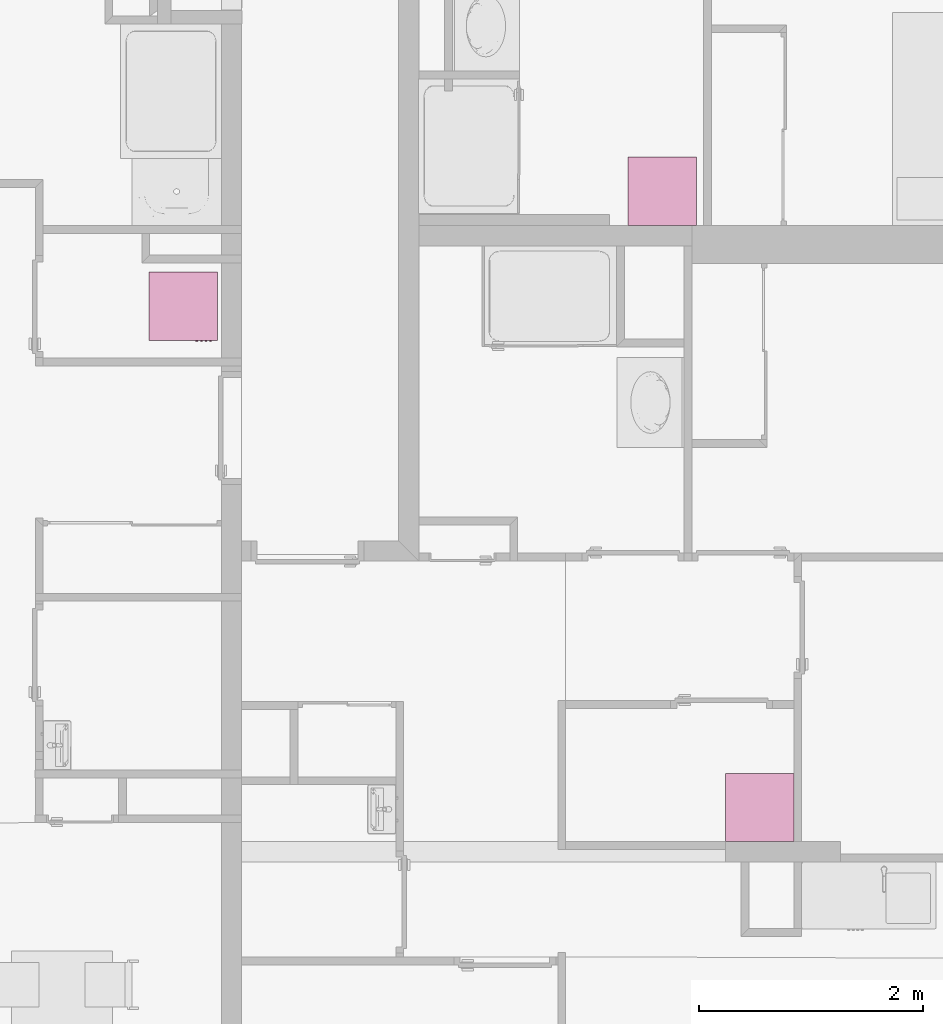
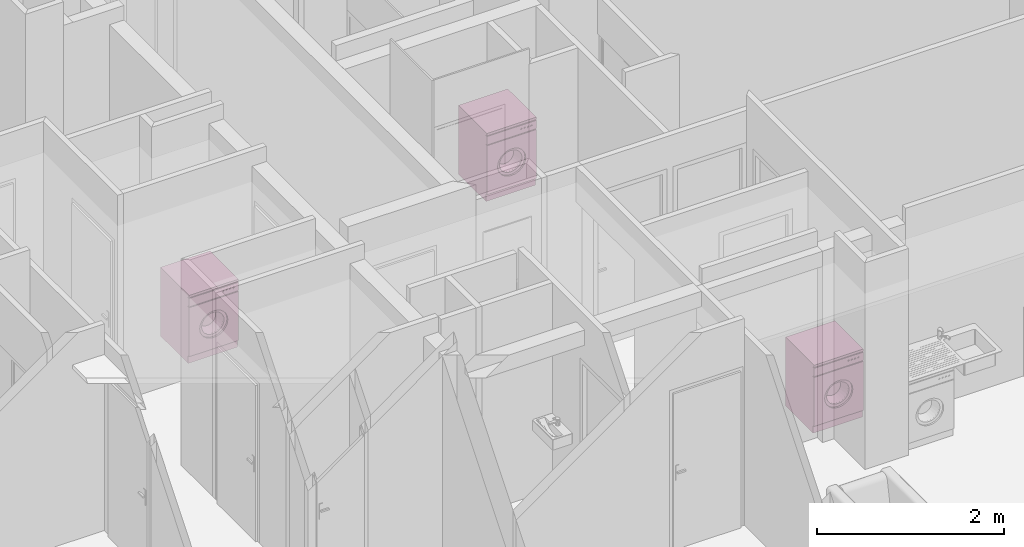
# One storey, part 118 of 164: 3 furnishings.
"""IFC2X3 building model written with IfcOpenShell, lengths in millimetres."""

import ifcopenshell
import ifcopenshell.guid

model = None  # the IFC model being written
_history = None  # IfcOwnerHistory: only IFC2X3 demands one
_inside = {}  # id of a spatial element -> (the spatial element, [elements in it])
_under = {}  # id of a project, library or spatial element -> (it, [spatial elements below it])
_declared = {}  # id of a project -> (the project, [libraries it declares])
_typed = {}  # id of a type object -> (the type object, [elements of that type])
_made_of = {}  # id of a material, layer set ... -> (it, [elements and type objects made of it])


def new_model(schema):
    """Start an empty IFC model of exactly this schema.

    Asked for "IFC4X3", IfcOpenShell would pick the latest addendum, in which some entities
    have other attributes; the version numbers below select the first issue.
    IFC2X3 requires an IfcOwnerHistory on every rooted entity: one is made here for all.
    """
    global model, _history
    if schema == "IFC4X3":
        model = ifcopenshell.file(schema_version=(4, 3, 0, 0))
    else:
        model = ifcopenshell.file(schema=schema)
    _inside.clear()
    _under.clear()
    _declared.clear()
    _typed.clear()
    _made_of.clear()
    _history = None
    if model.schema == "IFC2X3":
        org = make("IfcOrganization", Name="unknown")
        user = make(
            "IfcPersonAndOrganization",
            ThePerson=make("IfcPerson", FamilyName="unknown"),
            TheOrganization=org,
        )
        app = make(
            "IfcApplication",
            ApplicationDeveloper=org,
            Version="unknown",
            ApplicationFullName="unknown",
            ApplicationIdentifier="unknown",
        )
        _history = make(
            "IfcOwnerHistory",
            OwningUser=user,
            OwningApplication=app,
            ChangeAction="ADDED",
            CreationDate=0,
        )
    return model


def make(cls, **values):
    """One entity of the class cls with the attributes given. An attribute that is None is left unset."""
    return model.create_entity(
        cls, **{name: value for name, value in values.items() if value is not None}
    )


def entity(cls, *values):
    """Any entity or typed value of the class cls, its attributes in the order of the schema. None: left unset."""
    e = model.create_entity(cls)
    for i, value in enumerate(values):
        if value is not None:
            e[i] = value
    return e


def rooted(cls, **values):
    """An entity with a GlobalId (a new one), such as an element, a storey or a relation."""
    return make(cls, GlobalId=ifcopenshell.guid.new(), OwnerHistory=_history, **values)


def si_unit(unit_type, name, prefix=None):
    """IfcSIUnit, for example si_unit("LENGTHUNIT", "METRE", prefix="MILLI")."""
    return make("IfcSIUnit", UnitType=unit_type, Prefix=prefix, Name=name)


def converted_unit(unit_type, name, factor, base, dimensions=None, offset=None):
    """IfcConversionBasedUnit, such as the inch: factor (a typed value) times the base unit."""
    return make(
        "IfcConversionBasedUnit"
        if offset is None
        else "IfcConversionBasedUnitWithOffset",
        ConversionOffset=offset,
        Dimensions=None
        if dimensions is None
        else entity("IfcDimensionalExponents", *dimensions),
        UnitType=unit_type,
        Name=name,
        ConversionFactor=make(
            "IfcMeasureWithUnit", ValueComponent=factor, UnitComponent=base
        ),
    )


def derived_unit(unit_type, elements):
    """IfcDerivedUnit: a product of units, each with its exponent."""
    return make(
        "IfcDerivedUnit",
        Elements=[
            make("IfcDerivedUnitElement", Unit=unit, Exponent=power)
            for unit, power in elements
        ],
        UnitType=unit_type,
    )


def money_unit(currency):
    """IfcMonetaryUnit."""
    return make("IfcMonetaryUnit", Currency=currency)


def assignment(units):
    """IfcUnitAssignment: the units of a project."""
    return None if units is None else make("IfcUnitAssignment", Units=units)


def point(xyz):
    """IfcCartesianPoint."""
    return None if xyz is None else make("IfcCartesianPoint", Coordinates=xyz)


def direction(xyz):
    """IfcDirection."""
    return None if xyz is None else make("IfcDirection", DirectionRatios=xyz)


def frame(location, z_axis=None, x_axis=None):
    """IfcAxis2Placement3D, a coordinate frame: its origin and axes. An axis left out is left unset."""
    return make(
        "IfcAxis2Placement3D",
        Location=point(location),
        Axis=direction(z_axis),
        RefDirection=direction(x_axis),
    )


def origin_with_axes():
    """The frame at (0, 0, 0) with the z axis (0, 0, 1) and the x axis (1, 0, 0) written out."""
    return frame((0.0, 0.0, 0.0), z_axis=(0.0, 0.0, 1.0), x_axis=(1.0, 0.0, 0.0))


def place(relative_to, where):
    """IfcLocalPlacement: puts the frame where relative to a parent placement (None: the world)."""
    return make(
        "IfcLocalPlacement", PlacementRelTo=relative_to, RelativePlacement=where
    )


def context(
    kind, dimensions, precision=None, world=None, true_north=None, identifier=None
):
    """IfcGeometricRepresentationContext, for example the 3D "Model" context."""
    return make(
        "IfcGeometricRepresentationContext",
        ContextIdentifier=identifier,
        ContextType=kind,
        CoordinateSpaceDimension=dimensions,
        Precision=precision,
        WorldCoordinateSystem=world,
        TrueNorth=true_north,
    )


def subcontext(parent, identifier, kind, view, scale=None):
    """IfcGeometricRepresentationSubContext, for example "Body" below "Model"."""
    return make(
        "IfcGeometricRepresentationSubContext",
        ContextIdentifier=identifier,
        ContextType=kind,
        ParentContext=parent,
        TargetScale=scale,
        TargetView=view,
    )


def project(units=None, contexts=None):
    """IfcProject with its units and contexts."""
    return rooted(
        "IfcProject",
        Name="project",
        RepresentationContexts=contexts,
        UnitsInContext=assignment(units),
    )


def spatial(cls, under=None, at=None, **own):
    """A site, building, storey or space (cls), placed at a placement, below another one or the project."""
    s = rooted(cls, ObjectPlacement=at, **own)
    if under is not None:
        _under.setdefault(under.id(), (under, []))[1].append(s)
    return s


def faces_of(points, faces, orient=None, outer=None):
    """IfcFace entities. A face is a list of loops; a loop is a list of indices into points, from 0.

    orient and outer hold one flag for each loop. By default every Orientation is true, the
    first loop of a face is its IfcFaceOuterBound and the others are IfcFaceBound.
    """
    made = []
    for i, loops in enumerate(faces):
        bounds = []
        for j, loop in enumerate(loops):
            is_outer = j == 0 if outer is None else outer[i][j]
            bounds.append(
                make(
                    "IfcFaceOuterBound" if is_outer else "IfcFaceBound",
                    Bound=make("IfcPolyLoop", Polygon=[points[k] for k in loop]),
                    Orientation=True if orient is None else orient[i][j],
                )
            )
        made.append(make("IfcFace", Bounds=bounds))
    return made


def open_shell(faces, orient=None, outer=None):
    """The faces of one IfcOpenShell. surface_model builds it on its shared points."""
    return ("IfcOpenShell", faces, orient, outer)


def faceted_brep(points, faces, orient=None, outer=None, voids=None):
    """IfcFacetedBrep: a solid bounded by flat faces; with voids (closed shells), ...WithVoids."""
    shared = [point(p) for p in points]
    hull = make("IfcClosedShell", CfsFaces=faces_of(shared, faces, orient, outer))
    if voids is None:
        return make("IfcFacetedBrep", Outer=hull)
    return make(
        "IfcFacetedBrepWithVoids",
        Outer=hull,
        Voids=[
            make(cls, CfsFaces=faces_of(shared, fs, o, b)) for cls, fs, o, b in voids
        ],
    )


def surface_model(cls, points, shells):
    """IfcFaceBasedSurfaceModel or IfcShellBasedSurfaceModel (cls): surfaces that need not close."""
    shared = [point(p) for p in points]
    made = [make(c, CfsFaces=faces_of(shared, fs, o, b)) for c, fs, o, b in shells]
    if cls == "IfcFaceBasedSurfaceModel":
        return make(cls, FbsmFaces=made)
    return make(cls, SbsmBoundary=made)


def shape(context_of_items, identifier, shape_type, items):
    """IfcShapeRepresentation: the items that make up one representation, for example the "Body"."""
    return make(
        "IfcShapeRepresentation",
        ContextOfItems=context_of_items,
        RepresentationIdentifier=identifier,
        RepresentationType=shape_type,
        Items=items,
    )


def source(mapping_origin, context_of_items, identifier, shape_type, items):
    """IfcRepresentationMap: a shape defined once, which mapped items show again and again."""
    return make(
        "IfcRepresentationMap",
        MappingOrigin=mapping_origin,
        MappedRepresentation=shape(context_of_items, identifier, shape_type, items),
    )


def transform(
    local_origin,
    x_axis=None,
    y_axis=None,
    z_axis=None,
    scale=None,
    scale2=None,
    scale3=None,
    uniform=True,
):
    """IfcCartesianTransformationOperator3D, or its non-uniform kind. x_axis, y_axis, z_axis: its Axis1, 2, 3."""
    if uniform:
        return make(
            "IfcCartesianTransformationOperator3D",
            Axis1=direction(x_axis),
            Axis2=direction(y_axis),
            LocalOrigin=point(local_origin),
            Scale=scale,
            Axis3=direction(z_axis),
        )
    return make(
        "IfcCartesianTransformationOperator3DnonUniform",
        Axis1=direction(x_axis),
        Axis2=direction(y_axis),
        LocalOrigin=point(local_origin),
        Scale=scale,
        Axis3=direction(z_axis),
        Scale2=scale2,
        Scale3=scale3,
    )


def mapped(mapping_source, mapping_target):
    """IfcMappedItem: shows the shape of a source again, moved by a transform."""
    return make(
        "IfcMappedItem", MappingSource=mapping_source, MappingTarget=mapping_target
    )


def made_of(thing, what):
    """Note that an element or type object is made of a material, layer set ...; save() writes the relation."""
    if what is not None:
        _made_of.setdefault(what.id(), (what, []))[1].append(thing)
    return thing


def type_object(cls, material=None, **own):
    """A type object (cls), such as IfcWallType, which elements share."""
    return made_of(rooted(cls, **own), material)


def element(
    cls,
    number,
    at=None,
    inside=None,
    cuts=None,
    type_object=None,
    material=None,
    context=None,
    identifier="Body",
    shape_type=None,
    held_by="IfcProductDefinitionShape",
    body=None,
    shapes=None,
    **own,
):
    """One element of the class cls, such as IfcWall. Its Tag is "e" and its number.

    at: its placement. inside: the storey or other place that contains it. cuts: it is an
    opening in that element (IfcRelVoidsElement). A single representation is given by context,
    identifier, shape_type and body (its items); several are given by shapes. held_by: the class
    of the entity that holds the representations. save() writes the other relations.
    """
    e = rooted(cls, Tag="e%d" % number, ObjectPlacement=at, **own)
    if body is not None:
        shapes = [shape(context, identifier, shape_type, body)]
    if shapes is not None:
        e.Representation = make(held_by, Representations=shapes)
    if inside is not None:
        _inside.setdefault(inside.id(), (inside, []))[1].append(e)
    if cuts is not None:
        rooted(
            "IfcRelVoidsElement", RelatingBuildingElement=cuts, RelatedOpeningElement=e
        )
    if type_object is not None:
        _typed.setdefault(type_object.id(), (type_object, []))[1].append(e)
    return made_of(e, material)


def aggregate(whole, parts):
    """IfcRelAggregates: a whole, such as a stair, and the parts it consists of."""
    return rooted("IfcRelAggregates", RelatingObject=whole, RelatedObjects=parts)


def save(model, path):
    """Write the relations noted so far, then the file.

    IfcRelAggregates (storeys below a building ...), IfcRelContainedInSpatialStructure (elements
    in a storey), IfcRelDefinesByType, IfcRelAssociatesMaterial and IfcRelDeclares: one each for
    every whole, place, type object, material and project.
    """
    for whole, parts in _under.values():
        aggregate(whole, parts)
    for where, things in _inside.values():
        rooted(
            "IfcRelContainedInSpatialStructure",
            RelatedElements=things,
            RelatingStructure=where,
        )
    for kind, things in _typed.values():
        rooted("IfcRelDefinesByType", RelatedObjects=things, RelatingType=kind)
    for what, things in _made_of.values():
        rooted("IfcRelAssociatesMaterial", RelatedObjects=things, RelatingMaterial=what)
    for by, libraries in _declared.values():
        rooted("IfcRelDeclares", RelatingContext=by, RelatedDefinitions=libraries)
    model.write(path)


model = new_model("IFC2X3")

# Units and contexts
model_context = context("Model", 3, precision=0.01, world=origin_with_axes(), true_north=direction((0.0, 1.0)))
body_context = subcontext(model_context, "Body", "Model", "MODEL_VIEW")
ifc_project = project(units=[si_unit("LENGTHUNIT", "METRE", prefix="MILLI"), si_unit("AREAUNIT", "SQUARE_METRE"), si_unit("VOLUMEUNIT", "CUBIC_METRE"), converted_unit("PLANEANGLEUNIT", "DEGREE", entity("IfcPlaneAngleMeasure", 0.0174532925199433), si_unit("PLANEANGLEUNIT", "RADIAN"), dimensions=[0, 0, 0, 0, 0, 0, 0]), money_unit("USD"), converted_unit("TIMEUNIT", "Year", entity("IfcTimeMeasure", 31557600.0), si_unit("TIMEUNIT", "SECOND"), dimensions=[0, 0, 1, 0, 0, 0, 0]), si_unit("MASSUNIT", "GRAM", prefix="KILO"), si_unit("THERMODYNAMICTEMPERATUREUNIT", "DEGREE_CELSIUS"), si_unit("LUMINOUSINTENSITYUNIT", "LUMEN"), si_unit("ENERGYUNIT", "JOULE", prefix="MEGA"), derived_unit("THERMALCONDUCTANCEUNIT", [(si_unit("POWERUNIT", "WATT"), 1), (si_unit("LENGTHUNIT", "METRE"), -1), (si_unit("THERMODYNAMICTEMPERATUREUNIT", "KELVIN"), -1)]), derived_unit("SPECIFICHEATCAPACITYUNIT", [(si_unit("ENERGYUNIT", "JOULE"), 1), (si_unit("MASSUNIT", "GRAM", prefix="KILO"), -1), (si_unit("THERMODYNAMICTEMPERATUREUNIT", "KELVIN"), -1)]), derived_unit("MASSDENSITYUNIT", [(si_unit("MASSUNIT", "GRAM", prefix="KILO"), 1), (si_unit("VOLUMEUNIT", "CUBIC_METRE"), -1)])], contexts=[model_context])

# Site, building, storey
site_placement = place(None, origin_with_axes())
site = spatial("IfcSite", under=ifc_project, at=site_placement, Name="Site", CompositionType="ELEMENT")
building_placement = place(site_placement, origin_with_axes())
building = spatial("IfcBuilding", under=site, at=building_placement, Name="Bâtiment", CompositionType="ELEMENT")
storey_placement = place(building_placement, frame((0.0, 0.0, 5750.0), z_axis=(0.0, 0.0, 1.0), x_axis=(1.0, 0.0, 0.0)))
storey = spatial("IfcBuildingStorey", under=building, at=storey_placement, Name="Etage1", CompositionType="ELEMENT", Elevation=5750.0)

# Furnishings
furnishing_element_type = type_object("IfcFurnishingElementType", Name="Machine à laver")
shared_shape = source(origin_with_axes(), body_context, "Body", "SurfaceModel", [
    faceted_brep([(0.0, 20.33333333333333, 100.0), (0.0, 0.0, 100.0), (-610.0, 0.0, 100.0), (-610.0, 20.33333333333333, 100.0), (0.0, 20.33333333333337, 740.0), (0.0, 0.0, 740.0), (-610.0, 0.0, 740.0), (-479.2857142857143, 0.0, 420.0000000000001), (-473.3470725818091, 0.0, 465.1084621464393), (-455.935856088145, 0.0, 507.1428571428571), (-428.2386104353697, 0.0, 543.2386104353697), (-392.1428571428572, 0.0, 570.935856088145), (-350.1084621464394, 0.0, 588.347072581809), (-305.0000000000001, 0.0, 594.2857142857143), (-259.8915378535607, 0.0, 588.347072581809), (-217.8571428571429, 0.0, 570.9358560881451), (-181.7613895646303, 0.0, 543.2386104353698), (-154.0641439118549, 0.0, 507.1428571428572), (-136.6529274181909, 0.0, 465.1084621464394), (-130.7142857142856, 0.0, 420.0000000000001), (-136.6529274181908, 0.0, 374.8915378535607), (-154.0641439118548, 0.0, 332.8571428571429), (-181.7613895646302, 0.0, 296.7613895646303), (-217.8571428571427, 0.0, 269.064143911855), (-259.8915378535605, 0.0, 251.6529274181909), (-304.9999999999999, 0.0, 245.7142857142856), (-350.1084621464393, 0.0, 251.6529274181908), (-392.1428571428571, 0.0, 269.0641439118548), (-428.2386104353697, 0.0, 296.7613895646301), (-455.935856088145, 0.0, 332.8571428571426), (-473.3470725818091, 0.0, 374.8915378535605), (-610.0, 20.33333333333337, 740.0), (-479.2857142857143, 20.33333333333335, 420.0000000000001), (-473.3470725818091, 20.33333333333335, 374.8915378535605), (-455.935856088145, 20.33333333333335, 332.8571428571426), (-428.2386104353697, 20.33333333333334, 296.7613895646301), (-392.1428571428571, 20.33333333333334, 269.0641439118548), (-350.1084621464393, 20.33333333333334, 251.6529274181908), (-304.9999999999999, 20.33333333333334, 245.7142857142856), (-259.8915378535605, 20.33333333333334, 251.6529274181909), (-217.8571428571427, 20.33333333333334, 269.064143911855), (-181.7613895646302, 20.33333333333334, 296.7613895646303), (-154.0641439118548, 20.33333333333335, 332.8571428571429), (-136.6529274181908, 20.33333333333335, 374.8915378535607), (-130.7142857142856, 20.33333333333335, 420.0000000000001), (-136.6529274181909, 20.33333333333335, 465.1084621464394), (-154.0641439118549, 20.33333333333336, 507.1428571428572), (-181.7613895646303, 20.33333333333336, 543.2386104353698), (-217.8571428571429, 20.33333333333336, 570.9358560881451), (-259.8915378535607, 20.33333333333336, 588.347072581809), (-305.0000000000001, 20.33333333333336, 594.2857142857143), (-350.1084621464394, 20.33333333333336, 588.347072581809), (-392.1428571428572, 20.33333333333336, 570.935856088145), (-428.2386104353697, 20.33333333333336, 543.2386104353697), (-455.935856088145, 20.33333333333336, 507.1428571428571), (-473.3470725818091, 20.33333333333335, 465.1084621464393)], [[[0, 1, 2, 3]], [[4, 5, 1, 0]], [[1, 5, 6, 2], [7, 8, 9, 10, 11, 12, 13, 14, 15, 16, 17, 18, 19, 20, 21, 22, 23, 24, 25, 26, 27, 28, 29, 30]], [[3, 2, 6, 31]], [[0, 3, 31, 4], [32, 33, 34, 35, 36, 37, 38, 39, 40, 41, 42, 43, 44, 45, 46, 47, 48, 49, 50, 51, 52, 53, 54, 55]], [[31, 6, 5, 4]], [[55, 8, 7, 32]], [[54, 9, 8, 55]], [[53, 10, 9, 54]], [[52, 11, 10, 53]], [[51, 12, 11, 52]], [[50, 13, 12, 51]], [[49, 14, 13, 50]], [[48, 15, 14, 49]], [[47, 16, 15, 48]], [[46, 17, 16, 47]], [[45, 18, 17, 46]], [[44, 19, 18, 45]], [[43, 20, 19, 44]], [[42, 21, 20, 43]], [[41, 22, 21, 42]], [[40, 23, 22, 41]], [[39, 24, 23, 40]], [[38, 25, 24, 39]], [[37, 26, 25, 38]], [[36, 27, 26, 37]], [[35, 28, 27, 36]], [[34, 29, 28, 35]], [[33, 30, 29, 34]], [[32, 7, 30, 33]]]),
    faceted_brep([(-479.2857142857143, 40.66666666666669, 420.0000000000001), (-479.2857142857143, 20.33333333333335, 420.0000000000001), (-473.3470725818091, 20.33333333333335, 465.1084621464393), (-473.3470725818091, 40.66666666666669, 465.1084621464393), (-473.3470725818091, 40.66666666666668, 374.8915378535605), (-473.3470725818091, 20.33333333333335, 374.8915378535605), (-455.935856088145, 20.33333333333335, 332.8571428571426), (-428.2386104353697, 20.33333333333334, 296.7613895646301), (-392.1428571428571, 20.33333333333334, 269.0641439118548), (-350.1084621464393, 20.33333333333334, 251.6529274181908), (-304.9999999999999, 20.33333333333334, 245.7142857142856), (-259.8915378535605, 20.33333333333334, 251.6529274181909), (-217.8571428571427, 20.33333333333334, 269.064143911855), (-181.7613895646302, 20.33333333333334, 296.7613895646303), (-154.0641439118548, 20.33333333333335, 332.8571428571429), (-136.6529274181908, 20.33333333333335, 374.8915378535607), (-130.7142857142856, 20.33333333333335, 420.0000000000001), (-136.6529274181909, 20.33333333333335, 465.1084621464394), (-154.0641439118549, 20.33333333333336, 507.1428571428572), (-181.7613895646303, 20.33333333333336, 543.2386104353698), (-217.8571428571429, 20.33333333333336, 570.9358560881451), (-259.8915378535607, 20.33333333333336, 588.347072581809), (-305.0000000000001, 20.33333333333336, 594.2857142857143), (-350.1084621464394, 20.33333333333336, 588.347072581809), (-392.1428571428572, 20.33333333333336, 570.935856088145), (-428.2386104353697, 20.33333333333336, 543.2386104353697), (-455.935856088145, 20.33333333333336, 507.1428571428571), (-444.4285714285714, 20.33333333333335, 420.0000000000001), (-439.6776580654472, 20.33333333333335, 456.0867697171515), (-425.748684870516, 20.33333333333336, 489.7142857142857), (-403.5908883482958, 20.33333333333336, 518.5908883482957), (-374.7142857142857, 20.33333333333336, 540.748684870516), (-341.0867697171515, 20.33333333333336, 554.6776580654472), (-305.0000000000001, 20.33333333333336, 559.4285714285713), (-268.9132302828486, 20.33333333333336, 554.6776580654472), (-235.2857142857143, 20.33333333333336, 540.7486848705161), (-206.4091116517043, 20.33333333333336, 518.5908883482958), (-184.251315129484, 20.33333333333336, 489.7142857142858), (-170.3223419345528, 20.33333333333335, 456.0867697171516), (-165.5714285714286, 20.33333333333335, 420.0000000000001), (-170.3223419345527, 20.33333333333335, 383.9132302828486), (-184.2513151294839, 20.33333333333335, 350.2857142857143), (-206.4091116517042, 20.33333333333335, 321.4091116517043), (-235.2857142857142, 20.33333333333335, 299.251315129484), (-268.9132302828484, 20.33333333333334, 285.3223419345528), (-304.9999999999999, 20.33333333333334, 280.5714285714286), (-341.0867697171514, 20.33333333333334, 285.3223419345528), (-374.7142857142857, 20.33333333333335, 299.2513151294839), (-403.5908883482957, 20.33333333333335, 321.4091116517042), (-425.748684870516, 20.33333333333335, 350.2857142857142), (-439.6776580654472, 20.33333333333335, 383.9132302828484), (-455.935856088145, 40.66666666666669, 507.1428571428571), (-428.2386104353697, 40.66666666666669, 543.2386104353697), (-392.1428571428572, 40.66666666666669, 570.935856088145), (-350.1084621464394, 40.66666666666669, 588.347072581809), (-305.0000000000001, 40.66666666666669, 594.2857142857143), (-259.8915378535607, 40.66666666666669, 588.347072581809), (-217.8571428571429, 40.66666666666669, 570.9358560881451), (-181.7613895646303, 40.66666666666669, 543.2386104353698), (-154.0641439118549, 40.66666666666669, 507.1428571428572), (-136.6529274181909, 40.66666666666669, 465.1084621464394), (-130.7142857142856, 40.66666666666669, 420.0000000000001), (-136.6529274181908, 40.66666666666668, 374.8915378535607), (-154.0641439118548, 40.66666666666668, 332.8571428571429), (-181.7613895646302, 40.66666666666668, 296.7613895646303), (-217.8571428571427, 40.66666666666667, 269.064143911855), (-259.8915378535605, 40.66666666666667, 251.6529274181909), (-304.9999999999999, 40.66666666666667, 245.7142857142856), (-350.1084621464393, 40.66666666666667, 251.6529274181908), (-392.1428571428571, 40.66666666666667, 269.0641439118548), (-428.2386104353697, 40.66666666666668, 296.7613895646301), (-455.935856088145, 40.66666666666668, 332.8571428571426), (-444.4285714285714, 40.66666666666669, 420.0000000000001), (-439.6776580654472, 40.66666666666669, 383.9132302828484), (-425.748684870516, 40.66666666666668, 350.2857142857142), (-403.5908883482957, 40.66666666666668, 321.4091116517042), (-374.7142857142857, 40.66666666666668, 299.2513151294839), (-341.0867697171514, 40.66666666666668, 285.3223419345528), (-304.9999999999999, 40.66666666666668, 280.5714285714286), (-268.9132302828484, 40.66666666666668, 285.3223419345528), (-235.2857142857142, 40.66666666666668, 299.251315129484), (-206.4091116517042, 40.66666666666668, 321.4091116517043), (-184.2513151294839, 40.66666666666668, 350.2857142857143), (-170.3223419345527, 40.66666666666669, 383.9132302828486), (-165.5714285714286, 40.66666666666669, 420.0000000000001), (-170.3223419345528, 40.66666666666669, 456.0867697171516), (-184.251315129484, 40.66666666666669, 489.7142857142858), (-206.4091116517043, 40.66666666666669, 518.5908883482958), (-235.2857142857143, 40.66666666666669, 540.7486848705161), (-268.9132302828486, 40.66666666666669, 554.6776580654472), (-305.0000000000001, 40.66666666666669, 559.4285714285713), (-341.0867697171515, 40.66666666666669, 554.6776580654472), (-374.7142857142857, 40.66666666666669, 540.748684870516), (-403.5908883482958, 40.66666666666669, 518.5908883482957), (-425.748684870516, 40.66666666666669, 489.7142857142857), (-439.6776580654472, 40.66666666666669, 456.0867697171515)], [[[0, 1, 2, 3]], [[4, 5, 1, 0]], [[1, 5, 6, 7, 8, 9, 10, 11, 12, 13, 14, 15, 16, 17, 18, 19, 20, 21, 22, 23, 24, 25, 26, 2], [27, 28, 29, 30, 31, 32, 33, 34, 35, 36, 37, 38, 39, 40, 41, 42, 43, 44, 45, 46, 47, 48, 49, 50]], [[3, 2, 26, 51]], [[0, 3, 51, 52, 53, 54, 55, 56, 57, 58, 59, 60, 61, 62, 63, 64, 65, 66, 67, 68, 69, 70, 71, 4], [72, 73, 74, 75, 76, 77, 78, 79, 80, 81, 82, 83, 84, 85, 86, 87, 88, 89, 90, 91, 92, 93, 94, 95]], [[71, 6, 5, 4]], [[70, 7, 6, 71]], [[69, 8, 7, 70]], [[68, 9, 8, 69]], [[67, 10, 9, 68]], [[66, 11, 10, 67]], [[65, 12, 11, 66]], [[64, 13, 12, 65]], [[63, 14, 13, 64]], [[62, 15, 14, 63]], [[61, 16, 15, 62]], [[60, 17, 16, 61]], [[59, 18, 17, 60]], [[58, 19, 18, 59]], [[57, 20, 19, 58]], [[56, 21, 20, 57]], [[55, 22, 21, 56]], [[54, 23, 22, 55]], [[53, 24, 23, 54]], [[52, 25, 24, 53]], [[51, 26, 25, 52]], [[95, 28, 27, 72]], [[94, 29, 28, 95]], [[93, 30, 29, 94]], [[92, 31, 30, 93]], [[91, 32, 31, 92]], [[90, 33, 32, 91]], [[89, 34, 33, 90]], [[88, 35, 34, 89]], [[87, 36, 35, 88]], [[86, 37, 36, 87]], [[85, 38, 37, 86]], [[84, 39, 38, 85]], [[83, 40, 39, 84]], [[82, 41, 40, 83]], [[81, 42, 41, 82]], [[80, 43, 42, 81]], [[79, 44, 43, 80]], [[78, 45, 44, 79]], [[77, 46, 45, 78]], [[76, 47, 46, 77]], [[75, 48, 47, 76]], [[74, 49, 48, 75]], [[73, 50, 49, 74]], [[72, 27, 50, 73]]]),
    surface_model("IfcShellBasedSurfaceModel", [(-268.9132302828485, 40.6666666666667, 554.6776580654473), (-277.9349227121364, 142.3333333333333, 521.0082435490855), (-305.0, 142.3333333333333, 524.5714285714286), (-305.0, 40.6666666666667, 559.4285714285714), (-235.2857142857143, 40.6666666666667, 540.7486848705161), (-252.7142857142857, 142.3333333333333, 510.5615136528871), (-231.0568337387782, 142.3333333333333, 493.9431662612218), (-214.438486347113, 142.3333333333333, 472.2857142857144), (-203.9917564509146, 142.3333333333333, 447.0650772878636), (-200.4285714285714, 142.3333333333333, 420.0000000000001), (-203.9917564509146, 142.3333333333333, 392.9349227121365), (-214.4384863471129, 142.3333333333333, 367.7142857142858), (-231.0568337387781, 142.3333333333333, 346.0568337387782), (-252.7142857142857, 142.3333333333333, 329.438486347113), (-277.9349227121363, 142.3333333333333, 318.9917564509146), (-304.9999999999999, 142.3333333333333, 315.4285714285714), (-332.0650772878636, 142.3333333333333, 318.9917564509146), (-357.2857142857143, 142.3333333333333, 329.438486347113), (-378.9431662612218, 142.3333333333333, 346.0568337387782), (-395.561513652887, 142.3333333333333, 367.7142857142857), (-406.0082435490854, 142.3333333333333, 392.9349227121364), (-409.5714285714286, 142.3333333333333, 420.0), (-406.0082435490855, 142.3333333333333, 447.0650772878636), (-395.5615136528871, 142.3333333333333, 472.2857142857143), (-378.9431662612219, 142.3333333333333, 493.9431662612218), (-357.2857142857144, 142.3333333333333, 510.5615136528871), (-332.0650772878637, 142.3333333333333, 521.0082435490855), (-341.0867697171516, 40.6666666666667, 554.6776580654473), (-206.4091116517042, 40.66666666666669, 518.5908883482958), (-184.251315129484, 40.66666666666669, 489.7142857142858), (-170.3223419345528, 40.66666666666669, 456.0867697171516), (-165.5714285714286, 40.66666666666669, 420.0000000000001), (-170.3223419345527, 40.66666666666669, 383.9132302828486), (-184.2513151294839, 40.66666666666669, 350.2857142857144), (-206.4091116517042, 40.66666666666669, 321.4091116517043), (-235.2857142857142, 40.66666666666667, 299.251315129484), (-268.9132302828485, 40.66666666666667, 285.3223419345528), (-304.9999999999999, 40.66666666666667, 280.5714285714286), (-341.0867697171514, 40.66666666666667, 285.3223419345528), (-374.7142857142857, 40.66666666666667, 299.2513151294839), (-403.5908883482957, 40.66666666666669, 321.4091116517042), (-425.748684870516, 40.66666666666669, 350.2857142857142), (-439.6776580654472, 40.66666666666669, 383.9132302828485), (-444.4285714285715, 40.66666666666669, 419.9999999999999), (-439.6776580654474, 40.66666666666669, 456.0867697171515), (-425.7486848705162, 40.66666666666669, 489.7142857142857), (-403.5908883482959, 40.66666666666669, 518.5908883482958), (-374.7142857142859, 40.6666666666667, 540.7486848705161)], [open_shell([[[0, 1, 2, 3]], [[4, 5, 1, 0]], [[2, 1, 5, 6, 7, 8, 9, 10, 11, 12, 13, 14, 15, 16, 17, 18, 19, 20, 21, 22, 23, 24, 25, 26]], [[3, 2, 26, 27]], [[28, 6, 5, 4]], [[29, 7, 6, 28]], [[30, 8, 7, 29]], [[31, 9, 8, 30]], [[32, 10, 9, 31]], [[33, 11, 10, 32]], [[34, 12, 11, 33]], [[35, 13, 12, 34]], [[36, 14, 13, 35]], [[37, 15, 14, 36]], [[38, 16, 15, 37]], [[39, 17, 16, 38]], [[40, 18, 17, 39]], [[41, 19, 18, 40]], [[42, 20, 19, 41]], [[43, 21, 20, 42]], [[44, 22, 21, 43]], [[45, 23, 22, 44]], [[46, 24, 23, 45]], [[47, 25, 24, 46]], [[27, 26, 25, 47]]])]),
    surface_model("IfcShellBasedSurfaceModel", [(0.0, 20.33333333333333, 100.0), (0.0, 610.0, 99.99999999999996), (0.0, 610.0, 870.0), (0.0, 20.33333333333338, 870.0)], [open_shell([[[0, 1, 2, 3]]])]),
    surface_model("IfcShellBasedSurfaceModel", [(-610.0, 20.33333333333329, 100.0), (-610.0, 610.0, 99.99999999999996), (-610.0, 610.0, 870.0), (-610.0, 20.33333333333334, 870.0)], [open_shell([[[0, 1, 2, 3]]])]),
    surface_model("IfcShellBasedSurfaceModel", [(0.0, 610.0, 100.0), (-610.0, 610.0, 100.0), (-610.0, 610.0, 870.0), (0.0, 610.0, 870.0)], [open_shell([[[0, 1, 2, 3]]])]),
    faceted_brep([(0.0, 20.33333333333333, 0.0), (0.0, 20.33333333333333, 100.0), (-610.0, 20.33333333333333, 100.0), (-610.0, 20.33333333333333, 0.0), (0.0, 610.3333333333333, 0.0), (0.0, 610.3333333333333, 100.0), (-610.0, 610.3333333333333, 100.0), (-610.0, 610.3333333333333, 0.0)], [[[0, 1, 2, 3]], [[4, 5, 1, 0]], [[1, 5, 6, 2]], [[3, 2, 6, 7]], [[0, 3, 7, 4]], [[7, 6, 5, 4]]]),
    faceted_brep([(0.0, 20.33333333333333, 750.0), (0.0, 0.0, 750.0), (-610.0, 0.0, 750.0), (-610.0, 20.33333333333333, 750.0), (0.0, 20.33333333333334, 860.0), (0.0, 0.0, 860.0), (-610.0, 0.0, 860.0), (-610.0, 20.33333333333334, 860.0)], [[[0, 1, 2, 3]], [[4, 5, 1, 0]], [[1, 5, 6, 2]], [[3, 2, 6, 7]], [[0, 3, 7, 4]], [[7, 6, 5, 4]]]),
    surface_model("IfcShellBasedSurfaceModel", [(0.0, 20.33333333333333, 739.8333333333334), (-610.0, 20.33333333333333, 739.8333333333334), (-610.0, 20.33333333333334, 869.8333333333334), (0.0, 20.33333333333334, 869.8333333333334)], [open_shell([[[0, 1, 2, 3]]])]),
    faceted_brep([(0.0, 0.0, 870.0), (0.0, 0.0, 900.0), (-610.0, 0.0, 900.0), (-610.0, 0.0, 870.0), (0.0, 610.0, 870.0), (0.0, 610.0, 900.0), (-610.0, 610.0, 900.0), (-610.0, 610.0, 870.0)], [[[0, 1, 2, 3]], [[4, 5, 1, 0]], [[1, 5, 6, 2]], [[3, 2, 6, 7]], [[0, 3, 7, 4]], [[7, 6, 5, 4]]]),
    faceted_brep([(-69.80459160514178, 0.0, 804.9166666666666), (-71.16666666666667, 0.0, 809.9999999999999), (-69.8045916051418, 0.0, 815.0833333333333), (-66.08333333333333, 0.0, 818.8045916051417), (-61.0, 0.0, 820.1666666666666), (-55.91666666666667, 0.0, 818.8045916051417), (-52.19540839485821, 0.0, 815.0833333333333), (-50.83333333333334, 0.0, 809.9999999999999), (-52.1954083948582, 0.0, 804.9166666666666), (-55.91666666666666, 0.0, 801.1954083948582), (-60.99999999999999, 0.0, 799.8333333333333), (-66.08333333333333, 0.0, 801.1954083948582), (-69.80459160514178, -10.16666666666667, 804.9166666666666), (-71.16666666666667, -10.16666666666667, 809.9999999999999), (-69.8045916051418, -10.16666666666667, 815.0833333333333), (-66.08333333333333, -10.16666666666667, 818.8045916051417), (-61.0, -10.16666666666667, 820.1666666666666), (-55.91666666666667, -10.16666666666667, 818.8045916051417), (-52.19540839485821, -10.16666666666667, 815.0833333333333), (-50.83333333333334, -10.16666666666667, 809.9999999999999), (-52.1954083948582, -10.16666666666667, 804.9166666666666), (-55.91666666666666, -10.16666666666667, 801.1954083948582), (-60.99999999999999, -10.16666666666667, 799.8333333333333), (-66.08333333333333, -10.16666666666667, 801.1954083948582)], [[[0, 1, 2, 3, 4, 5, 6, 7, 8, 9, 10, 11]], [[0, 12, 13, 1]], [[1, 13, 14, 2]], [[2, 14, 15, 3]], [[3, 15, 16, 4]], [[4, 16, 17, 5]], [[5, 17, 18, 6]], [[6, 18, 19, 7]], [[7, 19, 20, 8]], [[8, 20, 21, 9]], [[9, 21, 22, 10]], [[10, 22, 23, 11]], [[11, 23, 12, 0]], [[12, 23, 22, 21, 20, 19, 18, 17, 16, 15, 14, 13]]]),
    faceted_brep([(-110.4712582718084, 0.0, 804.9166666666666), (-111.8333333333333, 0.0, 809.9999999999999), (-110.4712582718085, 0.0, 815.0833333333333), (-106.75, 0.0, 818.8045916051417), (-101.6666666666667, 0.0, 820.1666666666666), (-96.58333333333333, 0.0, 818.8045916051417), (-92.86207506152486, 0.0, 815.0833333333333), (-91.49999999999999, 0.0, 809.9999999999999), (-92.86207506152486, 0.0, 804.9166666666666), (-96.58333333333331, 0.0, 801.1954083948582), (-101.6666666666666, 0.0, 799.8333333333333), (-106.75, 0.0, 801.1954083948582), (-110.4712582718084, -10.16666666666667, 804.9166666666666), (-111.8333333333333, -10.16666666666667, 809.9999999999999), (-110.4712582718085, -10.16666666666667, 815.0833333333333), (-106.75, -10.16666666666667, 818.8045916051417), (-101.6666666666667, -10.16666666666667, 820.1666666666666), (-96.58333333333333, -10.16666666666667, 818.8045916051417), (-92.86207506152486, -10.16666666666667, 815.0833333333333), (-91.49999999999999, -10.16666666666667, 809.9999999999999), (-92.86207506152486, -10.16666666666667, 804.9166666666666), (-96.58333333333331, -10.16666666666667, 801.1954083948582), (-101.6666666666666, -10.16666666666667, 799.8333333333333), (-106.75, -10.16666666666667, 801.1954083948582)], [[[0, 1, 2, 3, 4, 5, 6, 7, 8, 9, 10, 11]], [[0, 12, 13, 1]], [[1, 13, 14, 2]], [[2, 14, 15, 3]], [[3, 15, 16, 4]], [[4, 16, 17, 5]], [[5, 17, 18, 6]], [[6, 18, 19, 7]], [[7, 19, 20, 8]], [[8, 20, 21, 9]], [[9, 21, 22, 10]], [[10, 22, 23, 11]], [[11, 23, 12, 0]], [[12, 23, 22, 21, 20, 19, 18, 17, 16, 15, 14, 13]]]),
    faceted_brep([(-151.1379249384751, 0.0, 804.9166666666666), (-152.5, 0.0, 809.9999999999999), (-151.1379249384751, 0.0, 815.0833333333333), (-147.4166666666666, 0.0, 818.8045916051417), (-142.3333333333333, 0.0, 820.1666666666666), (-137.25, 0.0, 818.8045916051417), (-133.5287417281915, 0.0, 815.0833333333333), (-132.1666666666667, 0.0, 809.9999999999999), (-133.5287417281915, 0.0, 804.9166666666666), (-137.25, 0.0, 801.1954083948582), (-142.3333333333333, 0.0, 799.8333333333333), (-147.4166666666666, 0.0, 801.1954083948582), (-151.1379249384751, -10.16666666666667, 804.9166666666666), (-152.5, -10.16666666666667, 809.9999999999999), (-151.1379249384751, -10.16666666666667, 815.0833333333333), (-147.4166666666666, -10.16666666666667, 818.8045916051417), (-142.3333333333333, -10.16666666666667, 820.1666666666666), (-137.25, -10.16666666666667, 818.8045916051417), (-133.5287417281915, -10.16666666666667, 815.0833333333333), (-132.1666666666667, -10.16666666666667, 809.9999999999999), (-133.5287417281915, -10.16666666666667, 804.9166666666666), (-137.25, -10.16666666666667, 801.1954083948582), (-142.3333333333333, -10.16666666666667, 799.8333333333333), (-147.4166666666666, -10.16666666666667, 801.1954083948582)], [[[0, 1, 2, 3, 4, 5, 6, 7, 8, 9, 10, 11]], [[0, 12, 13, 1]], [[1, 13, 14, 2]], [[2, 14, 15, 3]], [[3, 15, 16, 4]], [[4, 16, 17, 5]], [[5, 17, 18, 6]], [[6, 18, 19, 7]], [[7, 19, 20, 8]], [[8, 20, 21, 9]], [[9, 21, 22, 10]], [[10, 22, 23, 11]], [[11, 23, 12, 0]], [[12, 23, 22, 21, 20, 19, 18, 17, 16, 15, 14, 13]]]),
    faceted_brep([(-191.8045916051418, 0.0, 804.9166666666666), (-193.1666666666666, 0.0, 809.9999999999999), (-191.8045916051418, 0.0, 815.0833333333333), (-188.0833333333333, 0.0, 818.8045916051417), (-183.0, 0.0, 820.1666666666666), (-177.9166666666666, 0.0, 818.8045916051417), (-174.1954083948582, 0.0, 815.0833333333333), (-172.8333333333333, 0.0, 809.9999999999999), (-174.1954083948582, 0.0, 804.9166666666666), (-177.9166666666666, 0.0, 801.1954083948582), (-183.0, 0.0, 799.8333333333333), (-188.0833333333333, 0.0, 801.1954083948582), (-191.8045916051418, -10.16666666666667, 804.9166666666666), (-193.1666666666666, -10.16666666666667, 809.9999999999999), (-191.8045916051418, -10.16666666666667, 815.0833333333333), (-188.0833333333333, -10.16666666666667, 818.8045916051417), (-183.0, -10.16666666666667, 820.1666666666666), (-177.9166666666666, -10.16666666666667, 818.8045916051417), (-174.1954083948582, -10.16666666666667, 815.0833333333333), (-172.8333333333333, -10.16666666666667, 809.9999999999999), (-174.1954083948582, -10.16666666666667, 804.9166666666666), (-177.9166666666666, -10.16666666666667, 801.1954083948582), (-183.0, -10.16666666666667, 799.8333333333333), (-188.0833333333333, -10.16666666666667, 801.1954083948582)], [[[0, 1, 2, 3, 4, 5, 6, 7, 8, 9, 10, 11]], [[0, 12, 13, 1]], [[1, 13, 14, 2]], [[2, 14, 15, 3]], [[3, 15, 16, 4]], [[4, 16, 17, 5]], [[5, 17, 18, 6]], [[6, 18, 19, 7]], [[7, 19, 20, 8]], [[8, 20, 21, 9]], [[9, 21, 22, 10]], [[10, 22, 23, 11]], [[11, 23, 12, 0]], [[12, 23, 22, 21, 20, 19, 18, 17, 16, 15, 14, 13]]]),
])
for number, where, z_axis, x_axis, name in (
    (1, (2224095.903360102, -647761.9703329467, 0.0), (0.0, 0.0, 1.0), (0.999999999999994, -1.096796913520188e-07, 0.0), "Obj.-003"),
    (2, (2229236.669952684, -652233.2252011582, 0.0), (0.0, 0.0, 1.0), (1.0, 0.0, 0.0), "Obj.-003"),
    (3, (2228367.765197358, -646738.4413036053, 0.0), (0.0, 0.0, 1.0), (1.0, 0.0, 0.0), "Obj.-003"),
):
    element("IfcFurnishingElement", number, at=place(storey_placement, frame(where, z_axis=z_axis, x_axis=x_axis)), inside=storey, type_object=furnishing_element_type, Name=name, context=body_context, shape_type="MappedRepresentation", body=[
        mapped(shared_shape, transform((0.0, 0.0, 0.0))),
    ])

save(model, "model.ifc")
